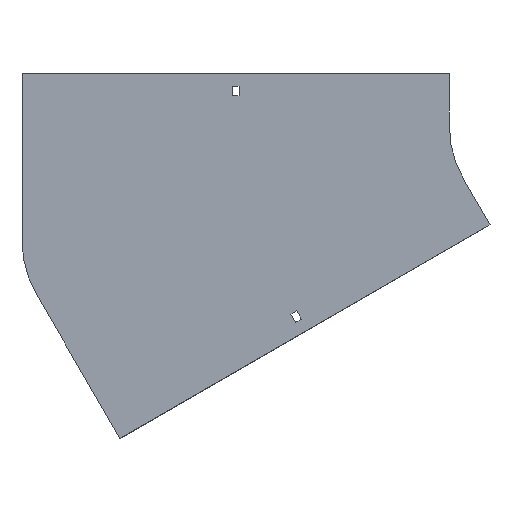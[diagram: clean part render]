
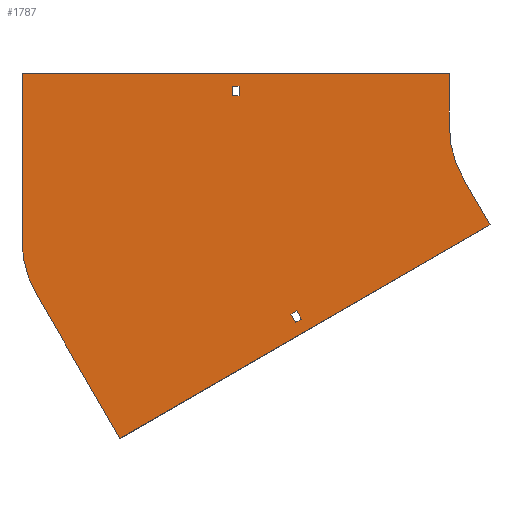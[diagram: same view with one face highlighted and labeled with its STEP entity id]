
A CAD part, front view. The second image highlights one B-rep face of the part: STEP entity #1787.
In plain terms, the highlighted planar face has unit normal (0, -1, 0).
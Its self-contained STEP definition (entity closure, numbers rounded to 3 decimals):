
#6 = VERTEX_POINT ( 'NONE', #961 ) ;
#33 = DIRECTION ( 'NONE',  ( -0.866, 0., -0.5 ) ) ;
#105 = ORIENTED_EDGE ( 'NONE', *, *, #146, .T. ) ;
#109 = CARTESIAN_POINT ( 'NONE',  ( -305.25, 0., 29. ) ) ;
#114 = LINE ( 'NONE', #268, #390 ) ;
#118 = ORIENTED_EDGE ( 'NONE', *, *, #596, .F. ) ;
#123 = FACE_BOUND ( 'NONE', #616, .T. ) ;
#131 = FACE_BOUND ( 'NONE', #518, .T. ) ;
#138 = LINE ( 'NONE', #759, #1330 ) ;
#146 = EDGE_CURVE ( 'NONE', #1055, #1630, #1793, .T. ) ;
#160 = DIRECTION ( 'NONE',  ( 0., 0., 1. ) ) ;
#175 = DIRECTION ( 'NONE',  ( 0., -1., 0. ) ) ;
#181 = CARTESIAN_POINT ( 'NONE',  ( -249.854, 0., -177.74 ) ) ;
#191 = DIRECTION ( 'NONE',  ( 0., 1., 0. ) ) ;
#198 = DIRECTION ( 'NONE',  ( -0.5, 0., 0.866 ) ) ;
#211 = CARTESIAN_POINT ( 'NONE',  ( -305.25, 0., 29. ) ) ;
#266 = VECTOR ( 'NONE', #322, 1000. ) ;
#267 = DIRECTION ( 'NONE',  ( 0., 0., -1. ) ) ;
#268 = CARTESIAN_POINT ( 'NONE',  ( -305.25, 0., 29. ) ) ;
#282 = EDGE_CURVE ( 'NONE', #593, #1827, #742, .T. ) ;
#322 = DIRECTION ( 'NONE',  ( -0.5, 0., 0.866 ) ) ;
#336 = LINE ( 'NONE', #477, #1938 ) ;
#337 = EDGE_CURVE ( 'NONE', #1475, #872, #1526, .T. ) ;
#342 = ORIENTED_EDGE ( 'NONE', *, *, #1710, .T. ) ;
#390 = VECTOR ( 'NONE', #744, 1000. ) ;
#397 = EDGE_CURVE ( 'NONE', #509, #867, #987, .T. ) ;
#400 = ORIENTED_EDGE ( 'NONE', *, *, #397, .T. ) ;
#425 = FACE_OUTER_BOUND ( 'NONE', #628, .T. ) ;
#434 = VECTOR ( 'NONE', #1573, 1000. ) ;
#465 = VECTOR ( 'NONE', #267, 1000. ) ;
#469 = DIRECTION ( 'NONE',  ( 0., 0., 1. ) ) ;
#477 = CARTESIAN_POINT ( 'NONE',  ( -504., 0., 50. ) ) ;
#488 = VERTEX_POINT ( 'NONE', #1565 ) ;
#509 = VERTEX_POINT ( 'NONE', #109 ) ;
#518 = EDGE_LOOP ( 'NONE', ( #1726, #749, #1362, #1693 ) ) ;
#535 = VERTEX_POINT ( 'NONE', #1924 ) ;
#538 = CARTESIAN_POINT ( 'NONE',  ( -245.354, 0., -185.534 ) ) ;
#557 = DIRECTION ( 'NONE',  ( 0., 0., -1. ) ) ;
#593 = VERTEX_POINT ( 'NONE', #1480 ) ;
#596 = EDGE_CURVE ( 'NONE', #1827, #6, #138, .T. ) ;
#616 = EDGE_LOOP ( 'NONE', ( #400, #1613, #105, #342 ) ) ;
#618 = AXIS2_PLACEMENT_3D ( 'NONE', #1355, #191, #160 ) ;
#625 = EDGE_CURVE ( 'NONE', #6, #535, #336, .T. ) ;
#628 = EDGE_LOOP ( 'NONE', ( #1225, #118, #840, #1781, #638, #1602, #1502, #1421 ) ) ;
#633 = DIRECTION ( 'NONE',  ( 1., 0., 0. ) ) ;
#638 = ORIENTED_EDGE ( 'NONE', *, *, #649, .F. ) ;
#649 = EDGE_CURVE ( 'NONE', #833, #1886, #1682, .T. ) ;
#650 = EDGE_CURVE ( 'NONE', #867, #1055, #1653, .T. ) ;
#686 = DIRECTION ( 'NONE',  ( 0.866, 0., 0.5 ) ) ;
#701 = EDGE_CURVE ( 'NONE', #1747, #969, #1801, .T. ) ;
#715 = CARTESIAN_POINT ( 'NONE',  ( -298.75, 0., 29. ) ) ;
#724 = PLANE ( 'NONE',  #1331 ) ;
#734 = CIRCLE ( 'NONE', #1083, 100. ) ;
#736 = CARTESIAN_POINT ( 'NONE',  ( -239.725, 0., -182.284 ) ) ;
#742 = CIRCLE ( 'NONE', #618, 100. ) ;
#744 = DIRECTION ( 'NONE',  ( -1., 0., 0. ) ) ;
#749 = ORIENTED_EDGE ( 'NONE', *, *, #337, .F. ) ;
#759 = CARTESIAN_POINT ( 'NONE',  ( -504., 0., -108.251 ) ) ;
#833 = VERTEX_POINT ( 'NONE', #1550 ) ;
#840 = ORIENTED_EDGE ( 'NONE', *, *, #282, .F. ) ;
#867 = VERTEX_POINT ( 'NONE', #1106 ) ;
#872 = VERTEX_POINT ( 'NONE', #1146 ) ;
#925 = VERTEX_POINT ( 'NONE', #1301 ) ;
#954 = CARTESIAN_POINT ( 'NONE',  ( -100., 0., 50. ) ) ;
#961 = CARTESIAN_POINT ( 'NONE',  ( -504., 0., 50. ) ) ;
#969 = VERTEX_POINT ( 'NONE', #1489 ) ;
#978 = LINE ( 'NONE', #954, #1398 ) ;
#987 = LINE ( 'NONE', #211, #434 ) ;
#1042 = CARTESIAN_POINT ( 'NONE',  ( -249.854, 0., -177.74 ) ) ;
#1055 = VERTEX_POINT ( 'NONE', #1530 ) ;
#1060 = CARTESIAN_POINT ( 'NONE',  ( -61.603, 0., -93.301 ) ) ;
#1069 = LINE ( 'NONE', #1667, #266 ) ;
#1083 = AXIS2_PLACEMENT_3D ( 'NONE', #1828, #175, #1370 ) ;
#1106 = CARTESIAN_POINT ( 'NONE',  ( -305.25, 0., 38. ) ) ;
#1114 = CARTESIAN_POINT ( 'NONE',  ( -298.75, 0., 29. ) ) ;
#1128 = EDGE_CURVE ( 'NONE', #1886, #593, #1069, .T. ) ;
#1140 = CARTESIAN_POINT ( 'NONE',  ( -86.603, 0., -50. ) ) ;
#1146 = CARTESIAN_POINT ( 'NONE',  ( -245.354, 0., -185.534 ) ) ;
#1153 = LINE ( 'NONE', #1140, #1266 ) ;
#1172 = DIRECTION ( 'NONE',  ( 0.5, 0., -0.866 ) ) ;
#1184 = DIRECTION ( 'NONE',  ( 0., -1., 0. ) ) ;
#1207 = VECTOR ( 'NONE', #33, 1000. ) ;
#1210 = DIRECTION ( 'NONE',  ( 1., 0., 0. ) ) ;
#1225 = ORIENTED_EDGE ( 'NONE', *, *, #625, .F. ) ;
#1246 = CARTESIAN_POINT ( 'NONE',  ( -504., 0., -108.251 ) ) ;
#1266 = VECTOR ( 'NONE', #1172, 1000. ) ;
#1301 = CARTESIAN_POINT ( 'NONE',  ( -86.603, 0., -50. ) ) ;
#1330 = VECTOR ( 'NONE', #469, 1000. ) ;
#1331 = AXIS2_PLACEMENT_3D ( 'NONE', #1338, #1184, #557 ) ;
#1338 = CARTESIAN_POINT ( 'NONE',  ( 0., 0., 0. ) ) ;
#1355 = CARTESIAN_POINT ( 'NONE',  ( -404., 0., -108.251 ) ) ;
#1362 = ORIENTED_EDGE ( 'NONE', *, *, #1823, .F. ) ;
#1370 = DIRECTION ( 'NONE',  ( 0., 0., -1. ) ) ;
#1375 = DIRECTION ( 'NONE',  ( 0.5, 0., -0.866 ) ) ;
#1379 = EDGE_CURVE ( 'NONE', #872, #1747, #1768, .T. ) ;
#1397 = VECTOR ( 'NONE', #1701, 1000. ) ;
#1398 = VECTOR ( 'NONE', #1575, 1000. ) ;
#1409 = EDGE_CURVE ( 'NONE', #925, #833, #1153, .T. ) ;
#1421 = ORIENTED_EDGE ( 'NONE', *, *, #1577, .F. ) ;
#1475 = VERTEX_POINT ( 'NONE', #1675 ) ;
#1480 = CARTESIAN_POINT ( 'NONE',  ( -490.603, 0., -158.251 ) ) ;
#1484 = EDGE_CURVE ( 'NONE', #488, #925, #734, .T. ) ;
#1489 = CARTESIAN_POINT ( 'NONE',  ( -244.225, 0., -174.49 ) ) ;
#1502 = ORIENTED_EDGE ( 'NONE', *, *, #1484, .F. ) ;
#1503 = VECTOR ( 'NONE', #1375, 1000. ) ;
#1508 = CARTESIAN_POINT ( 'NONE',  ( -411.477, 0., -295.301 ) ) ;
#1526 = LINE ( 'NONE', #181, #1503 ) ;
#1530 = CARTESIAN_POINT ( 'NONE',  ( -298.75, 0., 38. ) ) ;
#1533 = CARTESIAN_POINT ( 'NONE',  ( -244.225, 0., -174.49 ) ) ;
#1550 = CARTESIAN_POINT ( 'NONE',  ( -61.603, 0., -93.301 ) ) ;
#1565 = CARTESIAN_POINT ( 'NONE',  ( -100., 0., 0. ) ) ;
#1573 = DIRECTION ( 'NONE',  ( 0., 0., 1. ) ) ;
#1575 = DIRECTION ( 'NONE',  ( 0., 0., -1. ) ) ;
#1577 = EDGE_CURVE ( 'NONE', #535, #488, #978, .T. ) ;
#1583 = VECTOR ( 'NONE', #198, 1000. ) ;
#1602 = ORIENTED_EDGE ( 'NONE', *, *, #1409, .F. ) ;
#1613 = ORIENTED_EDGE ( 'NONE', *, *, #650, .T. ) ;
#1630 = VERTEX_POINT ( 'NONE', #1114 ) ;
#1653 = LINE ( 'NONE', #1662, #1709 ) ;
#1662 = CARTESIAN_POINT ( 'NONE',  ( -305.25, 0., 38. ) ) ;
#1667 = CARTESIAN_POINT ( 'NONE',  ( -411.477, 0., -295.301 ) ) ;
#1675 = CARTESIAN_POINT ( 'NONE',  ( -249.854, 0., -177.74 ) ) ;
#1682 = LINE ( 'NONE', #1060, #1207 ) ;
#1693 = ORIENTED_EDGE ( 'NONE', *, *, #701, .F. ) ;
#1701 = DIRECTION ( 'NONE',  ( -0.866, 0., -0.5 ) ) ;
#1709 = VECTOR ( 'NONE', #633, 1000. ) ;
#1710 = EDGE_CURVE ( 'NONE', #1630, #509, #114, .T. ) ;
#1726 = ORIENTED_EDGE ( 'NONE', *, *, #1379, .F. ) ;
#1747 = VERTEX_POINT ( 'NONE', #736 ) ;
#1768 = LINE ( 'NONE', #538, #1870 ) ;
#1781 = ORIENTED_EDGE ( 'NONE', *, *, #1128, .F. ) ;
#1787 = ADVANCED_FACE ( 'NONE', ( #123, #425, #131 ), #724, .T. ) ;
#1793 = LINE ( 'NONE', #715, #465 ) ;
#1801 = LINE ( 'NONE', #1533, #1583 ) ;
#1823 = EDGE_CURVE ( 'NONE', #969, #1475, #1948, .T. ) ;
#1827 = VERTEX_POINT ( 'NONE', #1246 ) ;
#1828 = CARTESIAN_POINT ( 'NONE',  ( 0., 0., 0. ) ) ;
#1870 = VECTOR ( 'NONE', #686, 1000. ) ;
#1886 = VERTEX_POINT ( 'NONE', #1508 ) ;
#1924 = CARTESIAN_POINT ( 'NONE',  ( -100., 0., 50. ) ) ;
#1938 = VECTOR ( 'NONE', #1210, 1000. ) ;
#1948 = LINE ( 'NONE', #1042, #1397 ) ;
